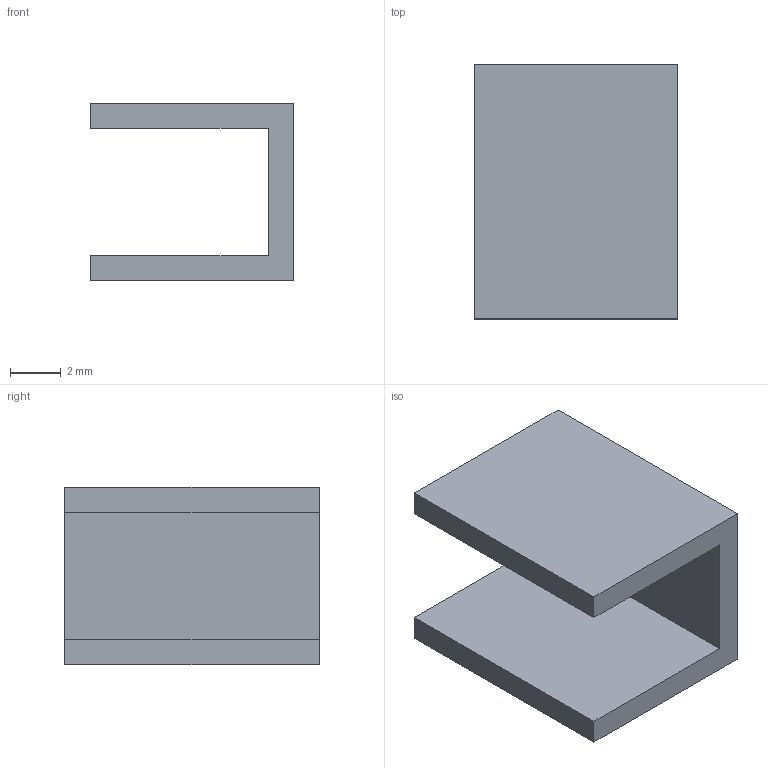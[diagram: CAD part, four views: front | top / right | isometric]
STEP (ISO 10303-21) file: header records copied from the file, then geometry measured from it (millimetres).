
FILE_DESCRIPTION(/* description */ ('この字固定金具'),/* implementation_level */ '2;1');
FILE_NAME(/* name */ 'Q503-K-ROCK.step',/* time_stamp */ '2026-04-10T16:25:46+09:00',/* author */ (''),/* organization */ (''),/* preprocessor_version */ 'ST-DEVELOPER v20.1',/* originating_system */ 'Autodesk Translation Framework v14.24.0.0',/* authorisation */ '');
FILE_SCHEMA (('AUTOMOTIVE_DESIGN { 1 0 10303 214 3 1 1 }'));
Length unit declared in the file: millimetre
Products named in the file (1): Q503-K-ROCK
Bounding box: 8 x 10 x 7 mm (x, y, z)
Volume: 210 mm3; surface area: 482 mm2
Topology: 1 solids, 1 shells, 10 faces, 24 edges, 16 vertices
Faces by surface type: plane 10
Entity records: 321 total; most frequent: CARTESIAN_POINT 51, ORIENTED_EDGE 48, DIRECTION 46, LINE 24, VECTOR 24, EDGE_CURVE 24, VERTEX_POINT 16, AXIS2_PLACEMENT_3D 11
